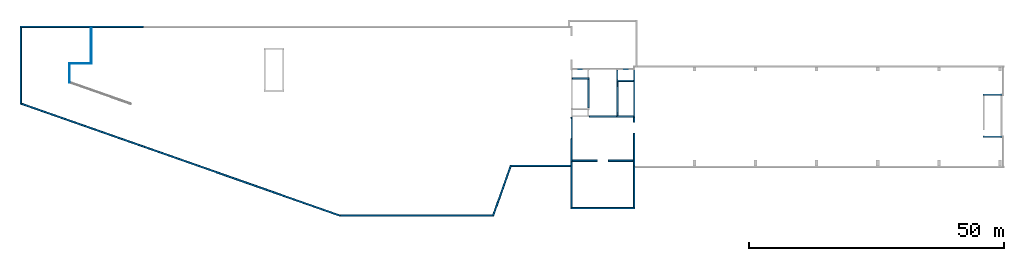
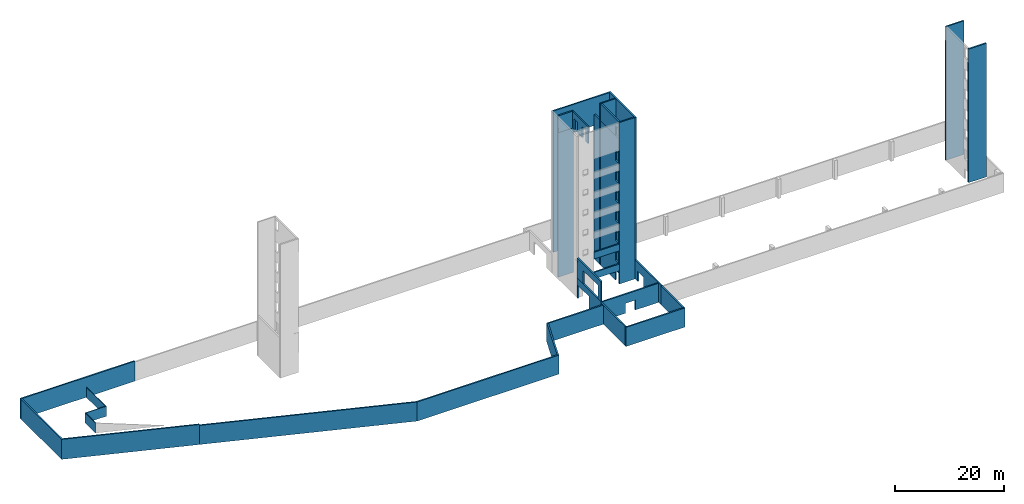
# One storey, part 2 of 4: 19 walls, 11 slabs.
"""IFC2X3 building model written with IfcOpenShell, lengths in millimetres."""

from ifc_helpers import new_model, si_unit, origin, place, context, project, spatial, faceted_brep, material, element, save


model = new_model("IFC2X3")

# Units and contexts
context_of_model = context(None, 3, precision=1e-05, world=origin())
ifc_project = project(units=[si_unit("LENGTHUNIT", "METRE", prefix="MILLI")], contexts=[context_of_model])

# Building, storey
building = spatial("IfcBuilding", under=ifc_project, Name="Building", CompositionType="ELEMENT")
storey = spatial("IfcBuildingStorey", under=building, Name="SHRWLS", CompositionType="ELEMENT")

# Slabs
ifc_material_1 = material(Name="C5000")
slab_1_placement = place(None, origin())
element("IfcSlab", 1, at=slab_1_placement, inside=storey, material=ifc_material_1, Name="Wall70", PredefinedType="FLOOR", context=context_of_model, shape_type="Brep", body=[
    faceted_brep([(12000.0, 27300.0, 28300.0), (0.0, 27300.0, 28300.0), (0.0, 27000.0, 28300.0), (12000.0, 27000.0, 28300.0), (0.0, 27300.0, 22500.0), (0.0, 27000.0, 22500.0), (0.0, 27300.0, 18000.0), (0.0, 27000.0, 18000.0), (0.0, 27300.0, 13500.0), (0.0, 27000.0, 13500.0), (0.0, 27300.0, 9000.0), (0.0, 27000.0, 9000.0), (0.0, 27300.0, 4500.0), (0.0, 27000.0, 4500.0), (0.0, 27300.0, 0.0), (0.0, 27000.0, 0.0), (3300.0, 27300.0, 0.0), (3300.0, 27000.0, 0.0), (3300.0, 27300.0, 4500.0), (3300.0, 27000.0, 4500.0), (3300.0, 27300.0, 9000.0), (3300.0, 27000.0, 9000.0), (3300.0, 27300.0, 13500.0), (3300.0, 27000.0, 13500.0), (3300.0, 27300.0, 18000.0), (3300.0, 27000.0, 18000.0), (3300.0, 27300.0, 22500.0), (3300.0, 27000.0, 22500.0), (3300.0, 27300.0, 25500.0), (3300.0, 27000.0, 25500.0), (8700.0, 27300.0, 25500.0), (8700.0, 27000.0, 25500.0), (8700.0, 27300.0, 0.0), (8700.0, 27000.0, 0.0), (12000.0, 27300.0, 0.0), (12000.0, 27000.0, 0.0), (2059.0, 27300.0, 4500.0), (941.0, 27300.0, 4500.0), (941.0, 27000.0, 4500.0), (2059.0, 27000.0, 4500.0), (941.0, 27300.0, 5735.0), (941.0, 27000.0, 5735.0), (2059.0, 27300.0, 5735.0), (2059.0, 27000.0, 5735.0), (2059.0, 27300.0, 9000.0), (941.0, 27300.0, 9000.0), (941.0, 27000.0, 9000.0), (2059.0, 27000.0, 9000.0), (941.0, 27300.0, 10235.0), (941.0, 27000.0, 10235.0), (2059.0, 27300.0, 10235.0), (2059.0, 27000.0, 10235.0), (2059.0, 27300.0, 13500.0), (941.0, 27300.0, 13500.0), (941.0, 27000.0, 13500.0), (2059.0, 27000.0, 13500.0), (941.0, 27300.0, 14735.0), (941.0, 27000.0, 14735.0), (2059.0, 27300.0, 14735.0), (2059.0, 27000.0, 14735.0), (2059.0, 27300.0, 18000.0), (941.0, 27300.0, 18000.0), (941.0, 27000.0, 18000.0), (2059.0, 27000.0, 18000.0), (941.0, 27300.0, 19235.0), (941.0, 27000.0, 19235.0), (2059.0, 27300.0, 19235.0), (2059.0, 27000.0, 19235.0), (2059.0, 27300.0, 22500.0), (941.0, 27300.0, 22500.0), (941.0, 27000.0, 22500.0), (2059.0, 27000.0, 22500.0), (941.0, 27300.0, 23735.0), (941.0, 27000.0, 23735.0), (2059.0, 27300.0, 23735.0), (2059.0, 27000.0, 23735.0), (11059.0, 27300.0, 4500.0), (9941.0, 27300.0, 4500.0), (9941.0, 27000.0, 4500.0), (11059.0, 27000.0, 4500.0), (9941.0, 27300.0, 5735.0), (9941.0, 27000.0, 5735.0), (11059.0, 27300.0, 5735.0), (11059.0, 27000.0, 5735.0), (11059.0, 27300.0, 9000.0), (9941.0, 27300.0, 9000.0), (9941.0, 27000.0, 9000.0), (11059.0, 27000.0, 9000.0), (9941.0, 27300.0, 10235.0), (9941.0, 27000.0, 10235.0), (11059.0, 27300.0, 10235.0), (11059.0, 27000.0, 10235.0), (11059.0, 27300.0, 13500.0), (9941.0, 27300.0, 13500.0), (9941.0, 27000.0, 13500.0), (11059.0, 27000.0, 13500.0), (9941.0, 27300.0, 14735.0), (9941.0, 27000.0, 14735.0), (11059.0, 27300.0, 14735.0), (11059.0, 27000.0, 14735.0), (11059.0, 27300.0, 18000.0), (9941.0, 27300.0, 18000.0), (9941.0, 27000.0, 18000.0), (11059.0, 27000.0, 18000.0), (9941.0, 27300.0, 19235.0), (9941.0, 27000.0, 19235.0), (11059.0, 27300.0, 19235.0), (11059.0, 27000.0, 19235.0), (11059.0, 27300.0, 22500.0), (9941.0, 27300.0, 22500.0), (9941.0, 27000.0, 22500.0), (11059.0, 27000.0, 22500.0), (9941.0, 27300.0, 23735.0), (9941.0, 27000.0, 23735.0), (11059.0, 27300.0, 23735.0), (11059.0, 27000.0, 23735.0), (0.0, 27302.4, 28300.0), (12000.0, 27302.4, 28300.0), (12000.0, 26997.6, 28300.0), (0.0, 26997.6, 28300.0), (12000.0, 27302.4, 31800.0), (12000.0, 26997.6, 31800.0), (0.0, 27302.4, 31800.0), (0.0, 26997.6, 31800.0)], [[[0, 1, 2, 3]], [[1, 4, 5, 2]], [[4, 6, 7, 5]], [[6, 8, 9, 7]], [[8, 10, 11, 9]], [[10, 12, 13, 11]], [[12, 14, 15, 13]], [[14, 16, 17, 15]], [[16, 18, 19, 17]], [[18, 20, 21, 19]], [[20, 22, 23, 21]], [[22, 24, 25, 23]], [[24, 26, 27, 25]], [[26, 28, 29, 27]], [[28, 30, 31, 29]], [[30, 32, 33, 31]], [[32, 34, 35, 33]], [[34, 0, 3, 35]], [[36, 37, 38, 39]], [[37, 40, 41, 38]], [[40, 42, 43, 41]], [[42, 36, 39, 43]], [[44, 45, 46, 47]], [[45, 48, 49, 46]], [[48, 50, 51, 49]], [[50, 44, 47, 51]], [[52, 53, 54, 55]], [[53, 56, 57, 54]], [[56, 58, 59, 57]], [[58, 52, 55, 59]], [[60, 61, 62, 63]], [[61, 64, 65, 62]], [[64, 66, 67, 65]], [[66, 60, 63, 67]], [[68, 69, 70, 71]], [[69, 72, 73, 70]], [[72, 74, 75, 73]], [[74, 68, 71, 75]], [[76, 77, 78, 79]], [[77, 80, 81, 78]], [[80, 82, 83, 81]], [[82, 76, 79, 83]], [[84, 85, 86, 87]], [[85, 88, 89, 86]], [[88, 90, 91, 89]], [[90, 84, 87, 91]], [[92, 93, 94, 95]], [[93, 96, 97, 94]], [[96, 98, 99, 97]], [[98, 92, 95, 99]], [[100, 101, 102, 103]], [[101, 104, 105, 102]], [[104, 106, 107, 105]], [[106, 100, 103, 107]], [[108, 109, 110, 111]], [[109, 112, 113, 110]], [[112, 114, 115, 113]], [[114, 108, 111, 115]], [[3, 2, 5, 7, 9, 11, 13, 15, 17, 19, 21, 23, 25, 27, 29, 31, 33, 35], [39, 38, 41, 43], [47, 46, 49, 51], [55, 54, 57, 59], [63, 62, 65, 67], [71, 70, 73, 75], [79, 78, 81, 83], [87, 86, 89, 91], [95, 94, 97, 99], [103, 102, 105, 107], [111, 110, 113, 115]], [[0, 34, 32, 30, 28, 26, 24, 22, 20, 18, 16, 14, 12, 10, 8, 6, 4, 1], [36, 42, 40, 37], [44, 50, 48, 45], [52, 58, 56, 53], [60, 66, 64, 61], [68, 74, 72, 69], [76, 82, 80, 77], [84, 90, 88, 85], [92, 98, 96, 93], [100, 106, 104, 101], [108, 114, 112, 109]], [[116, 117, 118, 119]], [[117, 120, 121, 118]], [[120, 122, 123, 121]], [[122, 116, 119, 123]], [[119, 118, 121, 123]], [[116, 122, 120, 117]]]),
])
ifc_material_2 = material(Name="C5000")
slab_2_placement = place(None, origin())
element("IfcSlab", 2, at=slab_2_placement, inside=storey, material=ifc_material_2, Name="Wall94", PredefinedType="FLOOR", context=context_of_model, shape_type="Brep", body=[
    faceted_brep([(12000.0, 17700.0, 0.0), (12000.0, 17700.0, -4500.0), (12000.0, 18000.0, -4500.0), (12000.0, 18000.0, 0.0), (8700.0, 17700.0, -4500.0), (8700.0, 18000.0, -4500.0), (8700.0, 17700.0, 0.0), (8700.0, 18000.0, 0.0), (8700.0, 17700.0, 4500.0), (8700.0, 18000.0, 4500.0), (8700.0, 17700.0, 9000.0), (8700.0, 18000.0, 9000.0), (8700.0, 17700.0, 13500.0), (8700.0, 18000.0, 13500.0), (8700.0, 17700.0, 18000.0), (8700.0, 18000.0, 18000.0), (8700.0, 17700.0, 22500.0), (8700.0, 18000.0, 22500.0), (8700.0, 17700.0, 31800.0), (8700.0, 18000.0, 31800.0), (12000.0, 17700.0, 31800.0), (12000.0, 18000.0, 31800.0), (12000.0, 17700.0, 22500.0), (12000.0, 18000.0, 22500.0), (12000.0, 17700.0, 18000.0), (12000.0, 18000.0, 18000.0), (12000.0, 17700.0, 13500.0), (12000.0, 18000.0, 13500.0), (12000.0, 17700.0, 9000.0), (12000.0, 18000.0, 9000.0), (12000.0, 17700.0, 4500.0), (12000.0, 18000.0, 4500.0)], [[[0, 1, 2, 3]], [[1, 4, 5, 2]], [[4, 6, 7, 5]], [[6, 8, 9, 7]], [[8, 10, 11, 9]], [[10, 12, 13, 11]], [[12, 14, 15, 13]], [[14, 16, 17, 15]], [[16, 18, 19, 17]], [[18, 20, 21, 19]], [[20, 22, 23, 21]], [[22, 24, 25, 23]], [[24, 26, 27, 25]], [[26, 28, 29, 27]], [[28, 30, 31, 29]], [[30, 0, 3, 31]], [[3, 2, 5, 7, 9, 11, 13, 15, 17, 19, 21, 23, 25, 27, 29, 31]], [[0, 30, 28, 26, 24, 22, 20, 18, 16, 14, 12, 10, 8, 6, 4, 1]]]),
])
ifc_material_3 = material(Name="C5000")
slab_3_placement = place(None, origin())
element("IfcSlab", 3, at=slab_3_placement, inside=storey, material=ifc_material_3, Name="Wall168", PredefinedType="FLOOR", context=context_of_model, shape_type="Brep", body=[
    faceted_brep([(12300.0, 18000.0, 31800.0), (12300.0, 18000.0, 22500.0), (12000.0, 18000.0, 22500.0), (12000.0, 18000.0, 31800.0), (12300.0, 27000.0, 22500.0), (12000.0, 27000.0, 22500.0), (12300.0, 27000.0, 31800.0), (12000.0, 27000.0, 31800.0), (12300.0, 27300.0, 31800.0), (12000.0, 27300.0, 31800.0), (12300.0, 27300.0, 22500.0), (12000.0, 27300.0, 22500.0), (12300.0, 27300.0, 18000.0), (12000.0, 27300.0, 18000.0), (12300.0, 27300.0, 13500.0), (12000.0, 27300.0, 13500.0), (12300.0, 27300.0, 9000.0), (12000.0, 27300.0, 9000.0), (12300.0, 27300.0, 4500.0), (12000.0, 27300.0, 4500.0), (12300.0, 27300.0, 0.0), (12000.0, 27300.0, 0.0), (12300.0, 27300.0, -4500.0), (12000.0, 27300.0, -4500.0), (12300.0, 17700.0, -4500.0), (12000.0, 17700.0, -4500.0), (12300.0, 17700.0, 0.0), (12000.0, 17700.0, 0.0), (12300.0, 17700.0, 4500.0), (12000.0, 17700.0, 4500.0), (12300.0, 17700.0, 9000.0), (12000.0, 17700.0, 9000.0), (12300.0, 17700.0, 13500.0), (12000.0, 17700.0, 13500.0), (12300.0, 17700.0, 18000.0), (12000.0, 17700.0, 18000.0), (12300.0, 17700.0, 22500.0), (12000.0, 17700.0, 22500.0), (12300.0, 17700.0, 31800.0), (12000.0, 17700.0, 31800.0), (12302.4, 27000.0, 31800.0), (12302.4, 27000.0, 22500.0), (11997.6, 27000.0, 22500.0), (11997.6, 27000.0, 31800.0), (12302.4, 18000.0, 22500.0), (11997.6, 18000.0, 22500.0), (12302.4, 18000.0, 31800.0), (11997.6, 18000.0, 31800.0), (12302.4, 18100.0, 25085.0), (12302.4, 18100.0, 22850.0), (11997.6, 18100.0, 22850.0), (11997.6, 18100.0, 25085.0), (12302.4, 19218.0, 22850.0), (11997.6, 19218.0, 22850.0), (12302.4, 19218.0, 25085.0), (11997.6, 19218.0, 25085.0)], [[[0, 1, 2, 3]], [[1, 4, 5, 2]], [[4, 6, 7, 5]], [[6, 8, 9, 7]], [[8, 10, 11, 9]], [[10, 12, 13, 11]], [[12, 14, 15, 13]], [[14, 16, 17, 15]], [[16, 18, 19, 17]], [[18, 20, 21, 19]], [[20, 22, 23, 21]], [[22, 24, 25, 23]], [[24, 26, 27, 25]], [[26, 28, 29, 27]], [[28, 30, 31, 29]], [[30, 32, 33, 31]], [[32, 34, 35, 33]], [[34, 36, 37, 35]], [[36, 38, 39, 37]], [[38, 0, 3, 39]], [[3, 2, 5, 7, 9, 11, 13, 15, 17, 19, 21, 23, 25, 27, 29, 31, 33, 35, 37, 39]], [[0, 38, 36, 34, 32, 30, 28, 26, 24, 22, 20, 18, 16, 14, 12, 10, 8, 6, 4, 1]], [[40, 41, 42, 43]], [[41, 44, 45, 42]], [[44, 46, 47, 45]], [[46, 40, 43, 47]], [[48, 49, 50, 51]], [[49, 52, 53, 50]], [[52, 54, 55, 53]], [[54, 48, 51, 55]], [[43, 42, 45, 47], [51, 50, 53, 55]], [[40, 46, 44, 41], [48, 54, 52, 49]]]),
])
ifc_material_4 = material(Name="C5000")
slab_4_placement = place(None, origin())
element("IfcSlab", 4, at=slab_4_placement, inside=storey, material=ifc_material_4, Name="Wall169", PredefinedType="FLOOR", context=context_of_model, shape_type="Brep", body=[
    faceted_brep([(9000.0, 19218.0, -4500.0), (9000.0, 19218.0, -2265.0), (8700.0, 19218.0, -2265.0), (8700.0, 19218.0, -4500.0), (9000.0, 18100.0, -2265.0), (8700.0, 18100.0, -2265.0), (9000.0, 18100.0, -4500.0), (8700.0, 18100.0, -4500.0), (9000.0, 18000.0, -4500.0), (8700.0, 18000.0, -4500.0), (9000.0, 18000.0, 0.0), (8700.0, 18000.0, 0.0), (9000.0, 18000.0, 4500.0), (8700.0, 18000.0, 4500.0), (9000.0, 18000.0, 9000.0), (8700.0, 18000.0, 9000.0), (9000.0, 18000.0, 13500.0), (8700.0, 18000.0, 13500.0), (9000.0, 18000.0, 18000.0), (8700.0, 18000.0, 18000.0), (9000.0, 18000.0, 22500.0), (8700.0, 18000.0, 22500.0), (9000.0, 18000.0, 28000.0), (8700.0, 18000.0, 28000.0), (9000.0, 19915.1, 28000.0), (8700.0, 19915.1, 28000.0), (9000.0, 24415.1, 28000.0), (8700.0, 24415.1, 28000.0), (9000.0, 27000.0, 28000.0), (8700.0, 27000.0, 28000.0), (9000.0, 27000.0, 22500.0), (8700.0, 27000.0, 22500.0), (9000.0, 27000.0, 18000.0), (8700.0, 27000.0, 18000.0), (9000.0, 27000.0, 13500.0), (8700.0, 27000.0, 13500.0), (9000.0, 27000.0, 9000.0), (8700.0, 27000.0, 9000.0), (9000.0, 27000.0, 4500.0), (8700.0, 27000.0, 4500.0), (9000.0, 27000.0, 0.0), (8700.0, 27000.0, 0.0), (9000.0, 27000.0, -4500.0), (8700.0, 27000.0, -4500.0), (9000.0, 19218.0, 0.0), (9000.0, 19218.0, 2235.0), (8700.0, 19218.0, 2235.0), (8700.0, 19218.0, 0.0), (9000.0, 18100.0, 2235.0), (8700.0, 18100.0, 2235.0), (9000.0, 18100.0, 0.0), (8700.0, 18100.0, 0.0), (9000.0, 19218.0, 4500.0), (9000.0, 19218.0, 6735.0), (8700.0, 19218.0, 6735.0), (8700.0, 19218.0, 4500.0), (9000.0, 18100.0, 6735.0), (8700.0, 18100.0, 6735.0), (9000.0, 18100.0, 4500.0), (8700.0, 18100.0, 4500.0), (9000.0, 19218.0, 9000.0), (9000.0, 19218.0, 11235.0), (8700.0, 19218.0, 11235.0), (8700.0, 19218.0, 9000.0), (9000.0, 18100.0, 11235.0), (8700.0, 18100.0, 11235.0), (9000.0, 18100.0, 9000.0), (8700.0, 18100.0, 9000.0), (9000.0, 19218.0, 13500.0), (9000.0, 19218.0, 15735.0), (8700.0, 19218.0, 15735.0), (8700.0, 19218.0, 13500.0), (9000.0, 18100.0, 15735.0), (8700.0, 18100.0, 15735.0), (9000.0, 18100.0, 13500.0), (8700.0, 18100.0, 13500.0), (9000.0, 19218.0, 18000.0), (9000.0, 19218.0, 20235.0), (8700.0, 19218.0, 20235.0), (8700.0, 19218.0, 18000.0), (9000.0, 18100.0, 20235.0), (8700.0, 18100.0, 20235.0), (9000.0, 18100.0, 18000.0), (8700.0, 18100.0, 18000.0), (9000.0, 19218.0, 22500.0), (9000.0, 19218.0, 24735.0), (8700.0, 19218.0, 24735.0), (8700.0, 19218.0, 22500.0), (9000.0, 18100.0, 24735.0), (8700.0, 18100.0, 24735.0), (9000.0, 18100.0, 22500.0), (8700.0, 18100.0, 22500.0)], [[[0, 1, 2, 3]], [[1, 4, 5, 2]], [[4, 6, 7, 5]], [[6, 8, 9, 7]], [[8, 10, 11, 9]], [[10, 12, 13, 11]], [[12, 14, 15, 13]], [[14, 16, 17, 15]], [[16, 18, 19, 17]], [[18, 20, 21, 19]], [[20, 22, 23, 21]], [[22, 24, 25, 23]], [[24, 26, 27, 25]], [[26, 28, 29, 27]], [[28, 30, 31, 29]], [[30, 32, 33, 31]], [[32, 34, 35, 33]], [[34, 36, 37, 35]], [[36, 38, 39, 37]], [[38, 40, 41, 39]], [[40, 42, 43, 41]], [[42, 0, 3, 43]], [[44, 45, 46, 47]], [[45, 48, 49, 46]], [[48, 50, 51, 49]], [[50, 44, 47, 51]], [[52, 53, 54, 55]], [[53, 56, 57, 54]], [[56, 58, 59, 57]], [[58, 52, 55, 59]], [[60, 61, 62, 63]], [[61, 64, 65, 62]], [[64, 66, 67, 65]], [[66, 60, 63, 67]], [[68, 69, 70, 71]], [[69, 72, 73, 70]], [[72, 74, 75, 73]], [[74, 68, 71, 75]], [[76, 77, 78, 79]], [[77, 80, 81, 78]], [[80, 82, 83, 81]], [[82, 76, 79, 83]], [[84, 85, 86, 87]], [[85, 88, 89, 86]], [[88, 90, 91, 89]], [[90, 84, 87, 91]], [[3, 2, 5, 7, 9, 11, 13, 15, 17, 19, 21, 23, 25, 27, 29, 31, 33, 35, 37, 39, 41, 43], [47, 46, 49, 51], [55, 54, 57, 59], [63, 62, 65, 67], [71, 70, 73, 75], [79, 78, 81, 83], [87, 86, 89, 91]], [[0, 42, 40, 38, 36, 34, 32, 30, 28, 26, 24, 22, 20, 18, 16, 14, 12, 10, 8, 6, 4, 1], [44, 50, 48, 45], [52, 58, 56, 53], [60, 66, 64, 61], [68, 74, 72, 69], [76, 82, 80, 77], [84, 90, 88, 85]]]),
])
ifc_material_5 = material(Name="C5000")
slab_5_placement = place(None, origin())
element("IfcSlab", 5, at=slab_5_placement, inside=storey, material=ifc_material_5, Name="Wall179", PredefinedType="FLOOR", context=context_of_model, shape_type="Brep", body=[
    faceted_brep([(84500.0, 22300.0, 22562.4), (80650.0, 22300.0, 22500.0), (80650.0, 22000.0, 22500.0), (84500.0, 22000.0, 22562.4), (80650.0, 22300.0, 0.0), (80650.0, 22000.0, 0.0), (80650.0, 22300.0, -4500.0), (80650.0, 22000.0, -4500.0), (84500.0, 22300.0, -4500.0), (84500.0, 22000.0, -4500.0), (84500.0, 22300.0, 0.0), (84500.0, 22000.0, 0.0), (80650.0, 22302.4, 22500.0), (84500.0, 22302.4, 22562.4), (84500.0, 21997.6, 22562.4), (80650.0, 21997.6, 22500.0), (84500.0, 22302.4, 25564.0), (84500.0, 21997.6, 25564.0), (80650.0, 22302.4, 25564.0), (80650.0, 21997.6, 25564.0)], [[[0, 1, 2, 3]], [[1, 4, 5, 2]], [[4, 6, 7, 5]], [[6, 8, 9, 7]], [[8, 10, 11, 9]], [[10, 0, 3, 11]], [[3, 2, 5, 7, 9, 11]], [[0, 10, 8, 6, 4, 1]], [[12, 13, 14, 15]], [[13, 16, 17, 14]], [[16, 18, 19, 17]], [[18, 12, 15, 19]], [[15, 14, 17, 19]], [[12, 18, 16, 13]]]),
])
ifc_material_6 = material(Name="C5000")
slab_6_placement = place(None, origin())
element("IfcSlab", 6, at=slab_6_placement, inside=storey, material=ifc_material_6, Name="Wall180", PredefinedType="FLOOR", context=context_of_model, shape_type="Brep", body=[
    faceted_brep([(80650.0, 13700.0, 22500.0), (84500.0, 13700.0, 22500.0), (84500.0, 14000.0, 22500.0), (80650.0, 14000.0, 22500.0), (84500.0, 13700.0, 0.0), (84500.0, 14000.0, 0.0), (84500.0, 13700.0, -4500.0), (84500.0, 14000.0, -4500.0), (80650.0, 13700.0, -4500.0), (80650.0, 14000.0, -4500.0), (80650.0, 13700.0, 0.0), (80650.0, 14000.0, 0.0), (84500.0, 13697.6, 22500.0), (80650.0, 13697.6, 22500.0), (80650.0, 14002.4, 22500.0), (84500.0, 14002.4, 22500.0), (80650.0, 13697.6, 25564.0), (80650.0, 14002.4, 25564.0), (84500.0, 13697.6, 25564.0), (84500.0, 14002.4, 25564.0)], [[[0, 1, 2, 3]], [[1, 4, 5, 2]], [[4, 6, 7, 5]], [[6, 8, 9, 7]], [[8, 10, 11, 9]], [[10, 0, 3, 11]], [[3, 2, 5, 7, 9, 11]], [[0, 10, 8, 6, 4, 1]], [[12, 13, 14, 15]], [[13, 16, 17, 14]], [[16, 18, 19, 17]], [[18, 12, 15, 19]], [[15, 14, 17, 19]], [[12, 18, 16, 13]]]),
])
ifc_material_7 = material(Name="C5000")
slab_7_placement = place(None, origin())
element("IfcSlab", 7, at=slab_7_placement, inside=storey, material=ifc_material_7, Name="Wall204", PredefinedType="FLOOR", context=context_of_model, shape_type="Brep", body=[
    faceted_brep([(3300.0, 25200.0, 0.0), (3300.0, 25200.0, -4500.0), (3300.0, 25500.0, -4500.0), (3300.0, 25500.0, 0.0), (0.0, 25200.0, -4500.0), (0.0, 25500.0, -4500.0), (0.0, 25200.0, 0.0), (0.0, 25500.0, 0.0), (0.0, 25200.0, 4500.0), (0.0, 25500.0, 4500.0), (0.0, 25200.0, 9000.0), (0.0, 25500.0, 9000.0), (0.0, 25200.0, 13500.0), (0.0, 25500.0, 13500.0), (0.0, 25200.0, 18000.0), (0.0, 25500.0, 18000.0), (0.0, 25200.0, 22500.0), (0.0, 25500.0, 22500.0), (0.0, 25200.0, 28000.0), (0.0, 25500.0, 28000.0), (3300.0, 25200.0, 28000.0), (3300.0, 25500.0, 28000.0), (3300.0, 25200.0, 22500.0), (3300.0, 25500.0, 22500.0), (3300.0, 25200.0, 18000.0), (3300.0, 25500.0, 18000.0), (3300.0, 25200.0, 13500.0), (3300.0, 25500.0, 13500.0), (3300.0, 25200.0, 9000.0), (3300.0, 25500.0, 9000.0), (3300.0, 25200.0, 4500.0), (3300.0, 25500.0, 4500.0)], [[[0, 1, 2, 3]], [[1, 4, 5, 2]], [[4, 6, 7, 5]], [[6, 8, 9, 7]], [[8, 10, 11, 9]], [[10, 12, 13, 11]], [[12, 14, 15, 13]], [[14, 16, 17, 15]], [[16, 18, 19, 17]], [[18, 20, 21, 19]], [[20, 22, 23, 21]], [[22, 24, 25, 23]], [[24, 26, 27, 25]], [[26, 28, 29, 27]], [[28, 30, 31, 29]], [[30, 0, 3, 31]], [[3, 2, 5, 7, 9, 11, 13, 15, 17, 19, 21, 23, 25, 27, 29, 31]], [[0, 30, 28, 26, 24, 22, 20, 18, 16, 14, 12, 10, 8, 6, 4, 1]]]),
])
ifc_material_8 = material(Name="C5000")
slab_8_placement = place(None, origin())
element("IfcSlab", 8, at=slab_8_placement, inside=storey, material=ifc_material_8, Name="Wall205", PredefinedType="FLOOR", context=context_of_model, shape_type="Brep", body=[
    faceted_brep([(12000.0, 24700.0, 0.0), (12000.0, 24700.0, -4500.0), (12000.0, 25000.0, -4500.0), (12000.0, 25000.0, 0.0), (8700.0, 24700.0, -4500.0), (8700.0, 25000.0, -4500.0), (8700.0, 24700.0, 0.0), (8700.0, 25000.0, 0.0), (8700.0, 24700.0, 4500.0), (8700.0, 25000.0, 4500.0), (8700.0, 24700.0, 9000.0), (8700.0, 25000.0, 9000.0), (8700.0, 24700.0, 13500.0), (8700.0, 25000.0, 13500.0), (8700.0, 24700.0, 18000.0), (8700.0, 25000.0, 18000.0), (8700.0, 24700.0, 22500.0), (8700.0, 25000.0, 22500.0), (8700.0, 24700.0, 31800.1), (8700.0, 25000.0, 31800.1), (12000.0, 24700.0, 31800.1), (12000.0, 25000.0, 31800.1), (12000.0, 24700.0, 22500.0), (12000.0, 25000.0, 22500.0), (12000.0, 24700.0, 18000.0), (12000.0, 25000.0, 18000.0), (12000.0, 24700.0, 13500.0), (12000.0, 25000.0, 13500.0), (12000.0, 24700.0, 9000.0), (12000.0, 25000.0, 9000.0), (12000.0, 24700.0, 4500.0), (12000.0, 25000.0, 4500.0)], [[[0, 1, 2, 3]], [[1, 4, 5, 2]], [[4, 6, 7, 5]], [[6, 8, 9, 7]], [[8, 10, 11, 9]], [[10, 12, 13, 11]], [[12, 14, 15, 13]], [[14, 16, 17, 15]], [[16, 18, 19, 17]], [[18, 20, 21, 19]], [[20, 22, 23, 21]], [[22, 24, 25, 23]], [[24, 26, 27, 25]], [[26, 28, 29, 27]], [[28, 30, 31, 29]], [[30, 0, 3, 31]], [[3, 2, 5, 7, 9, 11, 13, 15, 17, 19, 21, 23, 25, 27, 29, 31]], [[0, 30, 28, 26, 24, 22, 20, 18, 16, 14, 12, 10, 8, 6, 4, 1]]]),
])
ifc_material_9 = material(Name="C4000")
slab_9_placement = place(None, origin())
element("IfcSlab", 9, at=slab_9_placement, inside=storey, material=ifc_material_9, Name="Wall219", PredefinedType="FLOOR", context=context_of_model, shape_type="Brep", body=[
    faceted_brep([(9000.0, 19218.0, 28000.0), (9000.0, 19218.0, 30235.0), (8700.0, 19218.0, 30235.0), (8700.0, 19218.0, 28000.0), (9000.0, 18100.0, 30235.0), (8700.0, 18100.0, 30235.0), (9000.0, 18100.0, 28000.0), (8700.0, 18100.0, 28000.0), (9000.0, 18000.0, 28000.0), (8700.0, 18000.0, 28000.0), (9000.0, 18000.0, 31800.0), (8700.0, 18000.0, 31800.0), (9000.0, 25000.0, 31800.1), (8700.0, 25000.0, 31800.1), (9000.0, 25000.0, 28000.0), (8700.0, 25000.0, 28000.0)], [[[0, 1, 2, 3]], [[1, 4, 5, 2]], [[4, 6, 7, 5]], [[6, 8, 9, 7]], [[8, 10, 11, 9]], [[10, 12, 13, 11]], [[12, 14, 15, 13]], [[14, 0, 3, 15]], [[3, 2, 5, 7, 9, 11, 13, 15]], [[0, 14, 12, 10, 8, 6, 4, 1]]]),
])
ifc_material_10 = material(Name="C4000")
slab_10_placement = place(None, origin())
element("IfcSlab", 10, at=slab_10_placement, inside=storey, material=ifc_material_10, Name="Wall220", PredefinedType="FLOOR", context=context_of_model, shape_type="Brep", body=[
    faceted_brep([(3000.0, 21635.0, 28000.0), (3000.0, 23365.0, 28000.0), (3300.0, 23365.0, 28000.0), (3300.0, 21635.0, 28000.0), (3000.0, 23365.0, 30463.0), (3300.0, 23365.0, 30463.0), (3000.0, 24635.0, 30463.0), (3300.0, 24635.0, 30463.0), (3000.0, 24635.0, 28000.0), (3300.0, 24635.0, 28000.0), (3000.0, 25500.0, 28000.0), (3300.0, 25500.0, 28000.0), (3000.0, 25500.0, 31800.0), (3300.0, 25500.0, 31800.0), (3000.0, 19492.8, 31800.0), (3300.0, 19492.8, 31800.0), (3000.0, 19492.8, 28000.0), (3300.0, 19492.8, 28000.0), (3000.0, 20365.0, 28000.0), (3300.0, 20365.0, 28000.0), (3000.0, 20365.0, 30463.0), (3300.0, 20365.0, 30463.0), (3000.0, 21635.0, 30463.0), (3300.0, 21635.0, 30463.0)], [[[0, 1, 2, 3]], [[1, 4, 5, 2]], [[4, 6, 7, 5]], [[6, 8, 9, 7]], [[8, 10, 11, 9]], [[10, 12, 13, 11]], [[12, 14, 15, 13]], [[14, 16, 17, 15]], [[16, 18, 19, 17]], [[18, 20, 21, 19]], [[20, 22, 23, 21]], [[22, 0, 3, 23]], [[3, 2, 5, 7, 9, 11, 13, 15, 17, 19, 21, 23]], [[0, 22, 20, 18, 16, 14, 12, 10, 8, 6, 4, 1]]]),
])
ifc_material_11 = material(Name="C4000")
slab_11_placement = place(None, origin())
element("IfcSlab", 11, at=slab_11_placement, inside=storey, material=ifc_material_11, Name="Wall222", PredefinedType="FLOOR", context=context_of_model, shape_type="Brep", body=[
    faceted_brep([(3300.0, 25200.0, 28000.0), (11.905, 25200.0, 28000.0), (11.905, 25500.0, 28000.0), (3300.0, 25500.0, 28000.0), (0.0, 25200.0, 31800.0), (0.0, 25500.0, 31800.0), (3300.0, 25200.0, 31800.0), (3300.0, 25500.0, 31800.0)], [[[0, 1, 2, 3]], [[1, 4, 5, 2]], [[4, 6, 7, 5]], [[6, 0, 3, 7]], [[3, 2, 5, 7]], [[0, 6, 4, 1]]]),
])

# Walls
ifc_material_12 = material(Name="C5000")
wall_1_placement = place(None, origin())
element("IfcWall", 12, at=wall_1_placement, inside=storey, material=ifc_material_12, Name="Wall99", context=context_of_model, shape_type="Brep", body=[
    faceted_brep([(-108500.0, 20302.8, -4500.0), (-108500.0, 35318.8, -4500.0), (-108200.0, 35318.8, -4500.0), (-108200.0, 20199.5, -4500.0), (-108500.0, 35318.8, 0.0), (-108200.0, 35318.8, 0.0), (-108500.0, 20302.8, 1.62103e-13), (-108200.0, 20199.5, -1.00304e-15)], [[[0, 1, 2, 3]], [[1, 4, 5, 2]], [[4, 6, 7, 5]], [[6, 0, 3, 7]], [[3, 2, 5, 7]], [[0, 6, 4, 1]]]),
])
ifc_material_13 = material(Name="C5000")
wall_2_placement = place(None, origin())
element("IfcWall", 13, at=wall_2_placement, inside=storey, material=ifc_material_13, Name="Wall100", context=context_of_model, shape_type="Brep", body=[
    faceted_brep([(-15447.4, -1800.0, -4500.0), (-45606.8, -1800.0, -4500.0), (-45556.6, -1500.0, -4500.0), (-15657.4, -1500.0, -4500.0), (-45606.8, -1800.0, -203.2), (-45556.6, -1500.0, -203.2), (-15447.4, -1800.0, -203.2), (-15657.4, -1500.0, -203.2)], [[[0, 1, 2, 3]], [[1, 4, 5, 2]], [[4, 6, 7, 5]], [[6, 0, 3, 7]], [[3, 2, 5, 7]], [[0, 6, 4, 1]]]),
])
ifc_material_14 = material(Name="C5000")
wall_3_placement = place(None, origin())
element("IfcWall", 14, at=wall_3_placement, inside=storey, material=ifc_material_14, Name="Wall101", context=context_of_model, shape_type="Brep", body=[
    faceted_brep([(-11999.2, 8002.34, -4500.0), (-15444.1, -1797.66, -4500.0), (-15657.4, -1500.0, -4500.0), (-12212.5, 8300.0, -4500.0), (-15444.1, -1797.66, -203.2), (-15657.4, -1500.0, -203.2), (-11999.2, 8002.34, -203.2), (-12212.5, 8300.0, -203.2)], [[[0, 1, 2, 3]], [[1, 4, 5, 2]], [[4, 6, 7, 5]], [[6, 0, 3, 7]], [[3, 2, 5, 7]], [[0, 6, 4, 1]]]),
])
ifc_material_15 = material(Name="C5000")
wall_4_placement = place(None, origin())
element("IfcWall", 15, at=wall_4_placement, inside=storey, material=ifc_material_15, Name="Wall102", context=context_of_model, shape_type="Brep", body=[
    faceted_brep([(0.0, 8000.0, -4500.0), (-12002.5, 8000.0, -4500.0), (-12212.5, 8300.0, -4500.0), (0.0, 8300.0, -4500.0), (-12002.5, 8000.0, -203.2), (-12212.5, 8300.0, -203.2), (0.0, 8000.0, -203.2), (0.0, 8300.0, -203.2)], [[[0, 1, 2, 3]], [[1, 4, 5, 2]], [[4, 6, 7, 5]], [[6, 0, 3, 7]], [[3, 2, 5, 7]], [[0, 6, 4, 1]]]),
])
ifc_material_16 = material(Name="C5000")
wall_5_placement = place(None, origin())
element("IfcWall", 16, at=wall_5_placement, inside=storey, material=ifc_material_16, Name="Wall108", context=context_of_model, shape_type="Brep", body=[
    faceted_brep([(12304.8, -300.0, -4500.0), (-304.8, -300.0, -4500.0), (-304.8, 0.0, -4500.0), (12304.8, 0.0, -4500.0), (-304.8, -300.0, -203.2), (-304.8, 0.0, -203.2), (12304.8, -300.0, -203.2), (12304.8, 0.0, -203.2)], [[[0, 1, 2, 3]], [[1, 4, 5, 2]], [[4, 6, 7, 5]], [[6, 0, 3, 7]], [[3, 2, 5, 7]], [[0, 6, 4, 1]]]),
])
ifc_material_17 = material(Name="C5000")
wall_6_placement = place(None, origin())
element("IfcWall", 17, at=wall_6_placement, inside=storey, material=ifc_material_17, Name="Wall109", context=context_of_model, shape_type="Brep", body=[
    faceted_brep([(12300.0, 8100.0, -4500.0), (12300.0, 0.0, -4500.0), (12000.0, 0.0, -4500.0), (12000.0, 8100.0, -4500.0), (12300.0, 0.0, -203.2), (12000.0, 0.0, -203.2), (12300.0, 8100.0, -203.2), (12000.0, 8100.0, -203.2)], [[[0, 1, 2, 3]], [[1, 4, 5, 2]], [[4, 6, 7, 5]], [[6, 0, 3, 7]], [[3, 2, 5, 7]], [[0, 6, 4, 1]]]),
])
ifc_material_18 = material(Name="C5000")
wall_7_placement = place(None, origin())
element("IfcWall", 18, at=wall_7_placement, inside=storey, material=ifc_material_18, Name="Wall119", context=context_of_model, shape_type="Brep", body=[
    faceted_brep([(12300.0, 16696.2, -4500.0), (12300.0, 16696.2, -2265.0), (12000.0, 16696.2, -2265.0), (12000.0, 16696.2, -4500.0), (12300.0, 14562.2, -2265.0), (12000.0, 14562.2, -2265.0), (12300.0, 14562.2, -4500.0), (12000.0, 14562.2, -4500.0), (12300.0, 8100.0, -4500.0), (12000.0, 8100.0, -4500.0), (12300.0, 8100.0, -152.4), (12000.0, 8100.0, -152.4), (12300.0, 17695.2, -152.4), (12000.0, 17695.2, -152.4), (12300.0, 17695.2, -4500.0), (12000.0, 17695.2, -4500.0)], [[[0, 1, 2, 3]], [[1, 4, 5, 2]], [[4, 6, 7, 5]], [[6, 8, 9, 7]], [[8, 10, 11, 9]], [[10, 12, 13, 11]], [[12, 14, 15, 13]], [[14, 0, 3, 15]], [[3, 2, 5, 7, 9, 11, 13, 15]], [[0, 14, 12, 10, 8, 6, 4, 1]]]),
])
ifc_material_19 = material(Name="C5000")
wall_8_placement = place(None, origin())
element("IfcWall", 19, at=wall_8_placement, inside=storey, material=ifc_material_19, Name="Wall130", context=context_of_model, shape_type="Brep", body=[
    faceted_brep([(-300.0, 9225.0, 0.0), (-300.0, 9225.0, 3800.0), (0.0, 9225.0, 3800.0), (0.0, 9225.0, 0.0), (-300.0, 17695.2, 3800.0), (0.0, 17695.2, 3800.0), (-300.0, 17695.2, 4500.0), (0.0, 17695.2, 4500.0), (-300.0, 9000.0, 4500.0), (0.0, 9000.0, 4500.0), (-300.0, 9000.0, 0.0), (0.0, 9000.0, 0.0), (-302.4, 10100.0, 0.0), (-302.4, 10100.0, 3000.0), (2.4, 10100.0, 3000.0), (2.4, 10100.0, 0.0), (-302.4, 15500.0, 3000.0), (2.4, 15500.0, 3000.0), (-302.4, 15500.0, 0.0), (2.4, 15500.0, 0.0), (-302.4, 17695.2, 0.0), (2.4, 17695.2, 0.0), (-302.4, 17695.2, 3800.0), (2.4, 17695.2, 3800.0), (-302.4, 9225.0, 3800.0), (2.4, 9225.0, 3800.0), (-302.4, 9225.0, 0.0), (2.4, 9225.0, 0.0)], [[[0, 1, 2, 3]], [[1, 4, 5, 2]], [[4, 6, 7, 5]], [[6, 8, 9, 7]], [[8, 10, 11, 9]], [[10, 0, 3, 11]], [[3, 2, 5, 7, 9, 11]], [[0, 10, 8, 6, 4, 1]], [[12, 13, 14, 15]], [[13, 16, 17, 14]], [[16, 18, 19, 17]], [[18, 20, 21, 19]], [[20, 22, 23, 21]], [[22, 24, 25, 23]], [[24, 26, 27, 25]], [[26, 12, 15, 27]], [[15, 14, 17, 19, 21, 23, 25, 27]], [[12, 26, 24, 22, 20, 18, 16, 13]]]),
])
ifc_material_20 = material(Name="C5000")
wall_9_placement = place(None, origin())
element("IfcWall", 20, at=wall_9_placement, inside=storey, material=ifc_material_20, Name="Wall115", context=context_of_model, shape_type="Brep", body=[
    faceted_brep([(3300.0, 18000.0, 0.0), (3300.0, 18000.0, -1500.0), (3300.0, 17700.0, -1500.0), (3300.0, 17700.0, 0.0), (8700.0, 18000.0, -1500.0), (8700.0, 17700.0, -1500.0), (8700.0, 18000.0, 0.0), (8700.0, 17700.0, 0.0)], [[[0, 1, 2, 3]], [[1, 4, 5, 2]], [[4, 6, 7, 5]], [[6, 0, 3, 7]], [[3, 2, 5, 7]], [[0, 6, 4, 1]]]),
])
ifc_material_21 = material(Name="C5000")
wall_10_placement = place(None, origin())
element("IfcWall", 21, at=wall_10_placement, inside=storey, material=ifc_material_21, Name="Wall133", context=context_of_model, shape_type="Brep", body=[
    faceted_brep([(3300.0, 18000.0, 4500.0), (3300.0, 18000.0, 3000.0), (3300.0, 17700.0, 3000.0), (3300.0, 17700.0, 4500.0), (8700.0, 18000.0, 3000.0), (8700.0, 17700.0, 3000.0), (8700.0, 18000.0, 4500.0), (8700.0, 17700.0, 4500.0)], [[[0, 1, 2, 3]], [[1, 4, 5, 2]], [[4, 6, 7, 5]], [[6, 0, 3, 7]], [[3, 2, 5, 7]], [[0, 6, 4, 1]]]),
])
ifc_material_22 = material(Name="C4000")
wall_11_placement = place(None, origin())
element("IfcWall", 22, at=wall_11_placement, inside=storey, material=ifc_material_22, Name="Wall151", context=context_of_model, shape_type="Brep", body=[
    faceted_brep([(-98695.2, 24599.3, -4500.0), (-98695.2, 24599.3, -2250.0), (-98847.6, 24492.6, -2250.0), (-98847.6, 24492.6, -4500.0), (-98695.2, 28347.6, -2250.0), (-98847.6, 28347.6, -2250.0), (-98695.2, 28347.6, -4500.0), (-98847.6, 28347.6, -4500.0)], [[[0, 1, 2, 3]], [[1, 4, 5, 2]], [[4, 6, 7, 5]], [[6, 0, 3, 7]], [[3, 2, 5, 7]], [[0, 6, 4, 1]]]),
])
ifc_material_23 = material(Name="C4000")
wall_12_placement = place(None, origin())
element("IfcWall", 23, at=wall_12_placement, inside=storey, material=ifc_material_23, Name="Wall152", context=context_of_model, shape_type="Brep", body=[
    faceted_brep([(-98695.2, 28195.2, -4500.0), (-98695.2, 28195.2, -2250.0), (-98695.2, 28347.6, -2250.0), (-98695.2, 28347.6, -4500.0), (-94425.2, 28195.2, -2250.0), (-94425.2, 28347.6, -2250.0), (-94425.2, 28195.2, -4500.0), (-94425.2, 28347.6, -4500.0)], [[[0, 1, 2, 3]], [[1, 4, 5, 2]], [[4, 6, 7, 5]], [[6, 0, 3, 7]], [[3, 2, 5, 7]], [[0, 6, 4, 1]]]),
])
ifc_material_24 = material(Name="C4000")
wall_13_placement = place(None, origin())
element("IfcWall", 24, at=wall_13_placement, inside=storey, material=ifc_material_24, Name="Wall153", context=context_of_model, shape_type="Brep", body=[
    faceted_brep([(-94425.2, 28347.6, -4500.0), (-94425.2, 28347.6, -2250.0), (-94577.6, 28347.6, -2250.0), (-94577.6, 28347.6, -4500.0), (-94425.2, 35314.2, -2250.0), (-94577.6, 35314.2, -2250.0), (-94425.2, 35314.2, -4500.0), (-94577.6, 35314.2, -4500.0)], [[[0, 1, 2, 3]], [[1, 4, 5, 2]], [[4, 6, 7, 5]], [[6, 0, 3, 7]], [[3, 2, 5, 7]], [[0, 6, 4, 1]]]),
])
ifc_material_25 = material(Name="C5000")
wall_14_placement = place(None, origin())
element("IfcWall", 25, at=wall_14_placement, inside=storey, material=ifc_material_25, Name="Wall158", context=context_of_model, shape_type="Brep", body=[
    faceted_brep([(0.0, 9000.0, -203.2), (0.0, 9000.0, -4500.0), (-300.0, 9000.0, -4500.0), (-300.0, 9000.0, -203.2), (0.0, 0.0, -4500.0), (-300.0, 0.0, -4500.0), (0.0, 0.0, -203.2), (-300.0, 0.0, -203.2)], [[[0, 1, 2, 3]], [[1, 4, 5, 2]], [[4, 6, 7, 5]], [[6, 0, 3, 7]], [[3, 2, 5, 7]], [[0, 6, 4, 1]]]),
])
ifc_material_26 = material(Name="C5000")
wall_15_placement = place(None, origin())
element("IfcWall", 26, at=wall_15_placement, inside=storey, material=ifc_material_26, Name="Wall165", context=context_of_model, shape_type="Brep", body=[
    faceted_brep([(0.0, 17500.0, -4500.0), (0.0, 17500.0, -1500.0), (-300.0, 17500.0, -1500.0), (-300.0, 17500.0, -4500.0), (0.0, 13424.0, -1500.0), (-300.0, 13424.0, -1500.0), (0.0, 13424.0, -4500.0), (-300.0, 13424.0, -4500.0), (0.0, 9000.0, -4500.0), (-300.0, 9000.0, -4500.0), (0.0, 9000.0, 0.0), (-300.0, 9000.0, 0.0), (0.0, 17695.2, 0.0), (-300.0, 17695.2, 0.0), (0.0, 17695.2, -4500.0), (-300.0, 17695.2, -4500.0)], [[[0, 1, 2, 3]], [[1, 4, 5, 2]], [[4, 6, 7, 5]], [[6, 8, 9, 7]], [[8, 10, 11, 9]], [[10, 12, 13, 11]], [[12, 14, 15, 13]], [[14, 0, 3, 15]], [[3, 2, 5, 7, 9, 11, 13, 15]], [[0, 14, 12, 10, 8, 6, 4, 1]]]),
])
ifc_material_27 = material(Name="C5000")
wall_16_placement = place(None, origin())
element("IfcWall", 27, at=wall_16_placement, inside=storey, material=ifc_material_27, Name="Wall174", context=context_of_model, shape_type="Brep", body=[
    faceted_brep([(-84254.0, 35618.8, 0.0), (-108500.0, 35618.8, 0.0), (-108500.0, 35318.8, 0.0), (-84254.0, 35318.8, 0.0), (-108500.0, 35618.8, -4500.0), (-108500.0, 35318.8, -4500.0), (-84254.0, 35618.8, -4500.0), (-84254.0, 35318.8, -4500.0)], [[[0, 1, 2, 3]], [[1, 4, 5, 2]], [[4, 6, 7, 5]], [[6, 0, 3, 7]], [[3, 2, 5, 7]], [[0, 6, 4, 1]]]),
])
ifc_material_28 = material(Name="C5000")
wall_17_placement = place(None, origin())
element("IfcWall", 28, at=wall_17_placement, inside=storey, material=ifc_material_28, Name="Wall175", context=context_of_model, shape_type="Brep", body=[
    faceted_brep([(-84000.0, 12013.6, -203.2), (-84000.0, 12013.6, -4500.0), (-84099.5, 11730.6, -4500.0), (-84099.5, 11730.6, -203.2), (-45556.6, -1500.0, -4500.0), (-45608.7, -1799.67, -4500.0), (-45556.6, -1500.0, -203.2), (-45608.7, -1799.67, -203.2)], [[[0, 1, 2, 3]], [[1, 4, 5, 2]], [[4, 6, 7, 5]], [[6, 0, 3, 7]], [[3, 2, 5, 7]], [[0, 6, 4, 1]]]),
])
ifc_material_29 = material(Name="C5000")
wall_18_placement = place(None, origin())
element("IfcWall", 29, at=wall_18_placement, inside=storey, material=ifc_material_29, Name="Wall176", context=context_of_model, shape_type="Brep", body=[
    faceted_brep([(-84000.0, 12013.6, 0.0), (-108498.0, 20620.1, 2.16194e-13), (-108500.0, 20302.8, 1.62103e-13), (-84099.5, 11730.6, 0.0), (-108498.0, 20620.1, -4500.0), (-108500.0, 20302.8, -4500.0), (-84000.0, 12013.6, -4500.0), (-84099.5, 11730.6, -4500.0)], [[[0, 1, 2, 3]], [[1, 4, 5, 2]], [[4, 6, 7, 5]], [[6, 0, 3, 7]], [[3, 2, 5, 7]], [[0, 6, 4, 1]]]),
])
ifc_material_30 = material(Name="C4000")
wall_19_placement = place(None, origin())
element("IfcWall", 30, at=wall_19_placement, inside=storey, material=ifc_material_30, Name="Wall218", context=context_of_model, shape_type="Brep", body=[
    faceted_brep([(4933.0, 9300.0, -4500.0), (4933.0, 9300.0, -2265.0), (4933.0, 9000.0, -2265.0), (4933.0, 9000.0, -4500.0), (7067.0, 9300.0, -2265.0), (7067.0, 9000.0, -2265.0), (7067.0, 9300.0, -4500.0), (7067.0, 9000.0, -4500.0), (12000.0, 9300.0, -4500.0), (12000.0, 9000.0, -4500.0), (12000.0, 9300.0, -203.2), (12000.0, 9000.0, -203.2), (0.0, 9300.0, -203.2), (0.0, 9000.0, -203.2), (0.0, 9300.0, -4500.0), (0.0, 9000.0, -4500.0)], [[[0, 1, 2, 3]], [[1, 4, 5, 2]], [[4, 6, 7, 5]], [[6, 8, 9, 7]], [[8, 10, 11, 9]], [[10, 12, 13, 11]], [[12, 14, 15, 13]], [[14, 0, 3, 15]], [[3, 2, 5, 7, 9, 11, 13, 15]], [[0, 14, 12, 10, 8, 6, 4, 1]]]),
])

save(model, "model.ifc")
